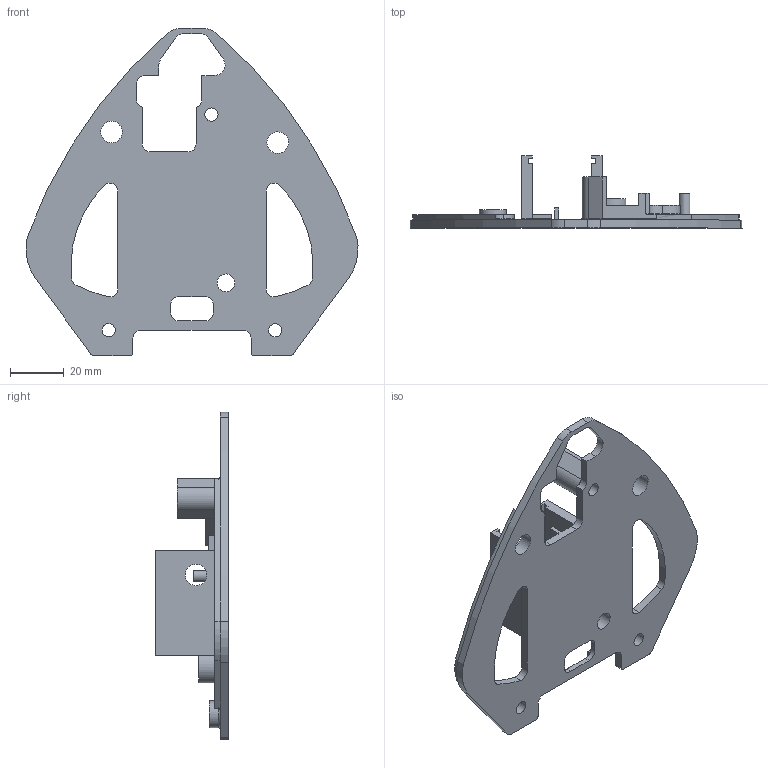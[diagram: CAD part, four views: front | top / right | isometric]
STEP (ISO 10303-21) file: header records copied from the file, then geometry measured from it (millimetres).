
FILE_DESCRIPTION(/* description */ (''),/* implementation_level */ '2;1');
FILE_NAME(/* name */ '/var/folders/rj/85yy392n7_sfh6cwvzcd5rxc0000gn/T/com.autodesk.mas.fusion360/Neutron/0cd30ac6-e0e1-4392-8a66-93159047388a.stp',/* time_stamp */ '2016-02-09T19:08:08+01:00',/* author */ (''),/* organization */ (''),/* preprocessor_version */ 'ST-DEVELOPER v16.2',/* originating_system */ 'Autodesk Translation Framework v4.3.0.3010',/* authorisation */ '');
FILE_SCHEMA (('AUTOMOTIVE_DESIGN { 1 0 10303 214 3 1 1 }'));
Length unit declared in the file: centimetre
Products named in the file (1): support v2
Bounding box: 123.93 x 27 x 122.17 mm (x, y, z)
Volume: 36200.6 mm3; surface area: 25738.8 mm2
Topology: 1 solids, 1 shells, 209 faces, 542 edges, 345 vertices
Faces by surface type: cylinder 94, plane 91, torus 18, cone 4, bspline 2
Full cylindrical faces by diameter (mm): 4 x1, 4.917 x3, 6.647 x1, 8 x2, 8.1 x2, 10 x2, 12 x1
Entity records: 6449 total; most frequent: CARTESIAN_POINT 1192, DIRECTION 1125, ORIENTED_EDGE 1048, EDGE_CURVE 524, AXIS2_PLACEMENT_3D 403, VERTEX_POINT 343, LINE 319, VECTOR 319
